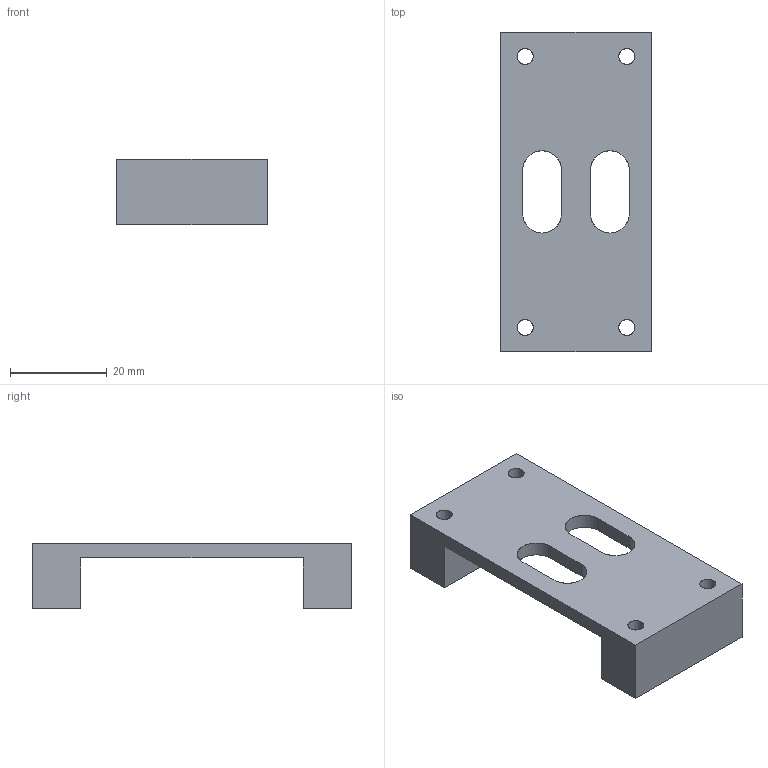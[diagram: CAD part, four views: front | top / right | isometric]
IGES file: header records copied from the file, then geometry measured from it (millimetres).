
Start section: SolidWorks IGES file using analytic representation for surfaces
Global section: file name: C:\Documents and Settings\CAD53\デスクトップ\IGES\N01915-102-0.IGS; native system: SolidWorks 2005 by SolidWorks Corporation; preprocessor: SolidWorks 2005 by SolidWorks Corporation; author: CAD53; date: 070530.094338; units: millimetre
Bounding box: 31 x 66 x 13.5 mm (x, y, z)
Surface area: 6657.1 mm2 (no closed solid volume)
Topology: 0 solids, 0 shells, 26 faces, 504 edges, 504 vertices
Faces by surface type: bspline 14, revolution 12
